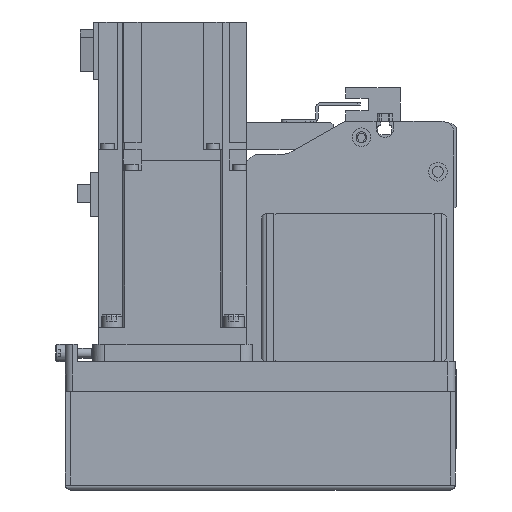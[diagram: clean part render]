
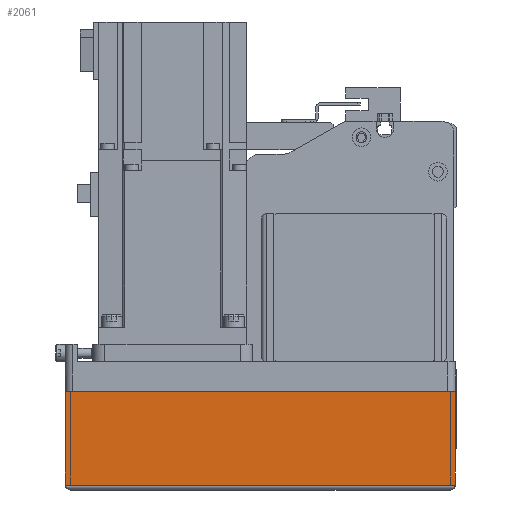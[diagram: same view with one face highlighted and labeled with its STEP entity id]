
A CAD part, left-side view. The second image highlights one B-rep face of the part: STEP entity #2061.
In plain terms, the highlighted planar face has unit normal (-1, 0, 0) as drawn and (0, -1, 0) by its records, which use the part's own axes.
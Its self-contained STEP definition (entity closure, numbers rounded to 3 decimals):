
#2061 = ADVANCED_FACE( '', ( #4715 ), #4716, .T. );
#4715 = FACE_OUTER_BOUND( '', #8033, .T. );
#4716 = PLANE( '', #8034 );
#8033 = EDGE_LOOP( '', ( #14029, #14030, #14031, #14032 ) );
#8034 = AXIS2_PLACEMENT_3D( '', #14033, #14034, #14035 );
#14029 = ORIENTED_EDGE( '', *, *, #19421, .F. );
#14030 = ORIENTED_EDGE( '', *, *, #21089, .F. );
#14031 = ORIENTED_EDGE( '', *, *, #19593, .T. );
#14032 = ORIENTED_EDGE( '', *, *, #21090, .T. );
#14033 = CARTESIAN_POINT( '', ( -158., -39., -12.1 ) );
#14034 = DIRECTION( '', ( 0., -1., 0. ) );
#14035 = DIRECTION( '', ( 0., 0., -1. ) );
#19421 = EDGE_CURVE( '', #23366, #23368, #23369, .T. );
#19593 = EDGE_CURVE( '', #23338, #23650, #23664, .T. );
#21089 = EDGE_CURVE( '', #23338, #23366, #26004, .T. );
#21090 = EDGE_CURVE( '', #23650, #23368, #26005, .T. );
#23338 = VERTEX_POINT( '', #28970 );
#23366 = VERTEX_POINT( '', #29009 );
#23368 = VERTEX_POINT( '', #29012 );
#23369 = LINE( '', #29013, #29014 );
#23650 = VERTEX_POINT( '', #29446 );
#23664 = LINE( '', #29463, #29464 );
#26004 = LINE( '', #33153, #33154 );
#26005 = LINE( '', #33155, #33156 );
#28970 = CARTESIAN_POINT( '', ( -158., -39., -12.1 ) );
#29009 = CARTESIAN_POINT( '', ( 0., -39., -12.1 ) );
#29012 = CARTESIAN_POINT( '', ( 0., -39., -50. ) );
#29013 = CARTESIAN_POINT( '', ( 0., -39., -12.1 ) );
#29014 = VECTOR( '', #35957, 1000. );
#29446 = CARTESIAN_POINT( '', ( -158., -39., -50. ) );
#29463 = CARTESIAN_POINT( '', ( -158., -39., -12.1 ) );
#29464 = VECTOR( '', #36172, 1000. );
#33153 = CARTESIAN_POINT( '', ( -158., -39., -12.1 ) );
#33154 = VECTOR( '', #38035, 1000. );
#33155 = CARTESIAN_POINT( '', ( -158., -39., -50. ) );
#33156 = VECTOR( '', #38036, 1000. );
#35957 = DIRECTION( '', ( 0., 0., -1. ) );
#36172 = DIRECTION( '', ( 0., 0., -1. ) );
#38035 = DIRECTION( '', ( 1., 0., 0. ) );
#38036 = DIRECTION( '', ( 1., 0., 0. ) );
